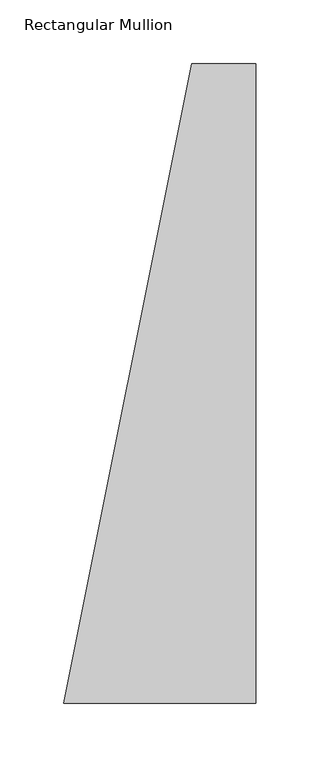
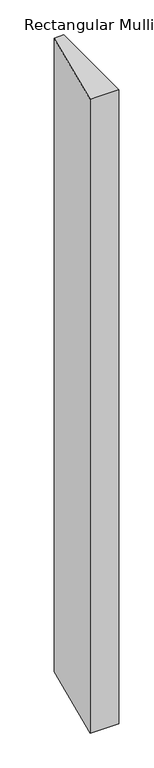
"""IFC4 building model written with IfcOpenShell, lengths in millimetres: member geometry, Rectangular Mullion : 500(350+150)x150x50mm."""

from ifc_helpers import new_model, si_unit, frame, origin, place, context, project, spatial, polyline, outline, extrude, source, transform, mapped, element, save


def rectangular_mullion_df1321a3(model_context):
    return source(origin(), model_context, "Body", "SweptSolid", [
        extrude(outline(polyline([(0.0, 150.0), (0.0, -350.0), (-150.0, -350.0), (-50.0, 150.0), (0.0, 150.0)])), frame((0.0, 0.0, -3500.0), z_axis=(0.0, 0.0, 1.0), x_axis=(1.0, 0.0, 0.0)), (0.0, 0.0, 1.0), 3500.0),
    ])


if __name__ == "__main__":
    model = new_model("IFC4")
    model_context = context("Model", 3, world=origin())
    ifc_project = project(units=[si_unit("LENGTHUNIT", "METRE", prefix="MILLI")], contexts=[model_context])
    site = spatial("IfcSite", under=ifc_project)
    building = spatial("IfcBuilding", under=site)
    placement = place(None, origin())
    rectangular_mullion_shape = rectangular_mullion_df1321a3(model_context)
    element("IfcMember", 1, ObjectType="Rectangular Mullion : 500(350+150)x150x50mm", at=placement, inside=building, context=model_context, shape_type="MappedRepresentation", body=[
        mapped(rectangular_mullion_shape, transform((0.0, 0.0, 0.0), x_axis=(1.0, 0.0, 0.0), y_axis=(0.0, 1.0, 0.0), z_axis=(0.0, 0.0, 1.0))),
    ])
    save(model, "model.ifc")
